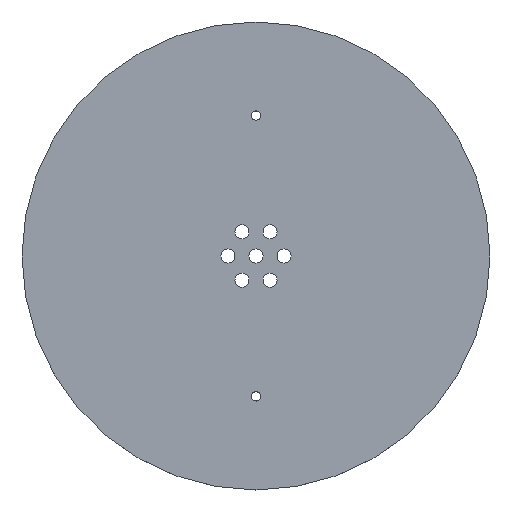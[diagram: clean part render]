
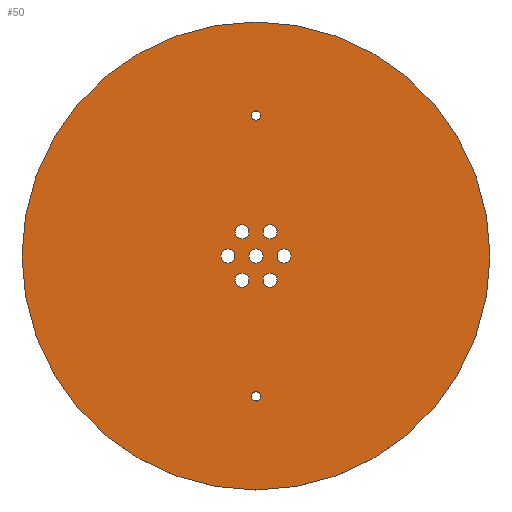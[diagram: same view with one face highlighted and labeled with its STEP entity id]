
A CAD part, top view. The second image highlights one B-rep face of the part: STEP entity #50.
In plain terms, the highlighted planar face has unit normal (0, 0, 1).
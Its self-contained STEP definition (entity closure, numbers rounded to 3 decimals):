
#21 = EDGE_CURVE('',#22,#22,#24,.T.);
#22 = VERTEX_POINT('',#23);
#23 = CARTESIAN_POINT('',(50.,0.,72.5));
#24 = CIRCLE('',#25,50.);
#25 = AXIS2_PLACEMENT_3D('',#26,#27,#28);
#26 = CARTESIAN_POINT('',(0.,0.,72.5));
#27 = DIRECTION('',(0.,0.,1.));
#28 = DIRECTION('',(1.,0.,0.));
#50 = ADVANCED_FACE('',(#51,#54,#65,#76,#87,#98,#109,#120,#131,#142),
  #153,.T.);
#51 = FACE_BOUND('',#52,.T.);
#52 = EDGE_LOOP('',(#53));
#53 = ORIENTED_EDGE('',*,*,#21,.T.);
#54 = FACE_BOUND('',#55,.T.);
#55 = EDGE_LOOP('',(#56));
#56 = ORIENTED_EDGE('',*,*,#57,.F.);
#57 = EDGE_CURVE('',#58,#58,#60,.T.);
#58 = VERTEX_POINT('',#59);
#59 = CARTESIAN_POINT('',(-1.5,-5.196,72.5));
#60 = CIRCLE('',#61,1.5);
#61 = AXIS2_PLACEMENT_3D('',#62,#63,#64);
#62 = CARTESIAN_POINT('',(-3.,-5.196,72.5));
#63 = DIRECTION('',(0.,0.,1.));
#64 = DIRECTION('',(1.,0.,0.));
#65 = FACE_BOUND('',#66,.T.);
#66 = EDGE_LOOP('',(#67));
#67 = ORIENTED_EDGE('',*,*,#68,.F.);
#68 = EDGE_CURVE('',#69,#69,#71,.T.);
#69 = VERTEX_POINT('',#70);
#70 = CARTESIAN_POINT('',(1.,-30.,72.5));
#71 = CIRCLE('',#72,1.);
#72 = AXIS2_PLACEMENT_3D('',#73,#74,#75);
#73 = CARTESIAN_POINT('',(0.,-30.,72.5));
#74 = DIRECTION('',(0.,0.,1.));
#75 = DIRECTION('',(1.,0.,0.));
#76 = FACE_BOUND('',#77,.T.);
#77 = EDGE_LOOP('',(#78));
#78 = ORIENTED_EDGE('',*,*,#79,.F.);
#79 = EDGE_CURVE('',#80,#80,#82,.T.);
#80 = VERTEX_POINT('',#81);
#81 = CARTESIAN_POINT('',(4.5,-5.196,72.5));
#82 = CIRCLE('',#83,1.5);
#83 = AXIS2_PLACEMENT_3D('',#84,#85,#86);
#84 = CARTESIAN_POINT('',(3.,-5.196,72.5));
#85 = DIRECTION('',(0.,0.,1.));
#86 = DIRECTION('',(1.,0.,0.));
#87 = FACE_BOUND('',#88,.T.);
#88 = EDGE_LOOP('',(#89));
#89 = ORIENTED_EDGE('',*,*,#90,.F.);
#90 = EDGE_CURVE('',#91,#91,#93,.T.);
#91 = VERTEX_POINT('',#92);
#92 = CARTESIAN_POINT('',(-4.5,0.,72.5));
#93 = CIRCLE('',#94,1.5);
#94 = AXIS2_PLACEMENT_3D('',#95,#96,#97);
#95 = CARTESIAN_POINT('',(-6.,0.,72.5));
#96 = DIRECTION('',(0.,0.,1.));
#97 = DIRECTION('',(1.,0.,0.));
#98 = FACE_BOUND('',#99,.T.);
#99 = EDGE_LOOP('',(#100));
#100 = ORIENTED_EDGE('',*,*,#101,.F.);
#101 = EDGE_CURVE('',#102,#102,#104,.T.);
#102 = VERTEX_POINT('',#103);
#103 = CARTESIAN_POINT('',(-1.5,5.196,72.5));
#104 = CIRCLE('',#105,1.5);
#105 = AXIS2_PLACEMENT_3D('',#106,#107,#108);
#106 = CARTESIAN_POINT('',(-3.,5.196,72.5));
#107 = DIRECTION('',(0.,0.,1.));
#108 = DIRECTION('',(1.,0.,0.));
#109 = FACE_BOUND('',#110,.T.);
#110 = EDGE_LOOP('',(#111));
#111 = ORIENTED_EDGE('',*,*,#112,.F.);
#112 = EDGE_CURVE('',#113,#113,#115,.T.);
#113 = VERTEX_POINT('',#114);
#114 = CARTESIAN_POINT('',(1.5,0.,72.5));
#115 = CIRCLE('',#116,1.5);
#116 = AXIS2_PLACEMENT_3D('',#117,#118,#119);
#117 = CARTESIAN_POINT('',(0.,0.,72.5));
#118 = DIRECTION('',(0.,0.,1.));
#119 = DIRECTION('',(1.,0.,0.));
#120 = FACE_BOUND('',#121,.T.);
#121 = EDGE_LOOP('',(#122));
#122 = ORIENTED_EDGE('',*,*,#123,.F.);
#123 = EDGE_CURVE('',#124,#124,#126,.T.);
#124 = VERTEX_POINT('',#125);
#125 = CARTESIAN_POINT('',(4.5,5.196,72.5));
#126 = CIRCLE('',#127,1.5);
#127 = AXIS2_PLACEMENT_3D('',#128,#129,#130);
#128 = CARTESIAN_POINT('',(3.,5.196,72.5));
#129 = DIRECTION('',(0.,0.,1.));
#130 = DIRECTION('',(1.,0.,0.));
#131 = FACE_BOUND('',#132,.T.);
#132 = EDGE_LOOP('',(#133));
#133 = ORIENTED_EDGE('',*,*,#134,.F.);
#134 = EDGE_CURVE('',#135,#135,#137,.T.);
#135 = VERTEX_POINT('',#136);
#136 = CARTESIAN_POINT('',(7.5,0.,72.5));
#137 = CIRCLE('',#138,1.5);
#138 = AXIS2_PLACEMENT_3D('',#139,#140,#141);
#139 = CARTESIAN_POINT('',(6.,0.,72.5));
#140 = DIRECTION('',(0.,0.,1.));
#141 = DIRECTION('',(1.,0.,0.));
#142 = FACE_BOUND('',#143,.T.);
#143 = EDGE_LOOP('',(#144));
#144 = ORIENTED_EDGE('',*,*,#145,.F.);
#145 = EDGE_CURVE('',#146,#146,#148,.T.);
#146 = VERTEX_POINT('',#147);
#147 = CARTESIAN_POINT('',(1.,30.,72.5));
#148 = CIRCLE('',#149,1.);
#149 = AXIS2_PLACEMENT_3D('',#150,#151,#152);
#150 = CARTESIAN_POINT('',(0.,30.,72.5));
#151 = DIRECTION('',(0.,0.,1.));
#152 = DIRECTION('',(1.,0.,0.));
#153 = PLANE('',#154);
#154 = AXIS2_PLACEMENT_3D('',#155,#156,#157);
#155 = CARTESIAN_POINT('',(0.,0.,72.5));
#156 = DIRECTION('',(0.,0.,1.));
#157 = DIRECTION('',(1.,0.,0.));
